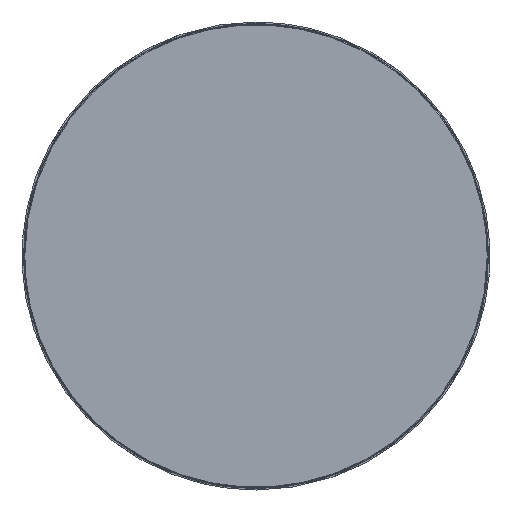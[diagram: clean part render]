
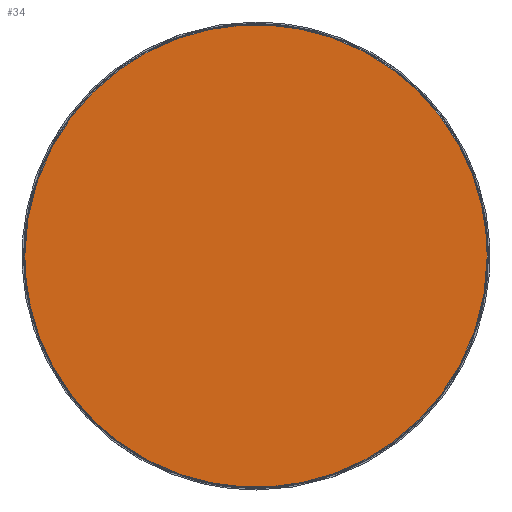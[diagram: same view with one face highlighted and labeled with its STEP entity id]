
A CAD part, top view. The second image highlights one B-rep face of the part: STEP entity #34.
In plain terms, the highlighted planar face has unit normal (0, 0, 1).
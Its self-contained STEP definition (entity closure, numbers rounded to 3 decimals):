
#34=ADVANCED_FACE('',(#56),#279,.T.);
#56=FACE_OUTER_BOUND('',#78,.T.);
#78=EDGE_LOOP('',(#110,#111));
#110=ORIENTED_EDGE('',*,*,#185,.F.);
#111=ORIENTED_EDGE('',*,*,#180,.F.);
#180=EDGE_CURVE('',#247,#250,#217,.T.);
#185=EDGE_CURVE('',#250,#247,#221,.T.);
#217=(
BOUNDED_CURVE()
B_SPLINE_CURVE(2,(#663,#664,#665,#666,#667),.UNSPECIFIED.,.F.,.F.)
B_SPLINE_CURVE_WITH_KNOTS((3,2,3),(0.,387.201,774.402),
 .UNSPECIFIED.)
CURVE()
GEOMETRIC_REPRESENTATION_ITEM()
RATIONAL_B_SPLINE_CURVE((1.,0.707,1.,0.707,1.))
REPRESENTATION_ITEM('')
);
#221=(
BOUNDED_CURVE()
B_SPLINE_CURVE(2,(#682,#683,#684,#685,#686),.UNSPECIFIED.,.F.,.F.)
B_SPLINE_CURVE_WITH_KNOTS((3,2,3),(774.402,1161.603,1548.804),
 .UNSPECIFIED.)
CURVE()
GEOMETRIC_REPRESENTATION_ITEM()
RATIONAL_B_SPLINE_CURVE((1.,0.707,1.,0.707,1.))
REPRESENTATION_ITEM('')
);
#247=VERTEX_POINT('',#645);
#250=VERTEX_POINT('',#648);
#279=PLANE('',#374);
#374=AXIS2_PLACEMENT_3D('',#621,#387,$);
#387=DIRECTION('',(0.,0.,1.));
#621=CARTESIAN_POINT('',(-59.875,558.875,530.94));
#645=CARTESIAN_POINT('',(496.,249.5,530.94));
#648=CARTESIAN_POINT('',(3.,249.5,530.94));
#663=CARTESIAN_POINT('',(496.,249.5,530.94));
#664=CARTESIAN_POINT('',(496.,3.,530.94));
#665=CARTESIAN_POINT('',(249.5,3.,530.94));
#666=CARTESIAN_POINT('',(3.,3.,530.94));
#667=CARTESIAN_POINT('',(3.,249.5,530.94));
#682=CARTESIAN_POINT('',(3.,249.5,530.94));
#683=CARTESIAN_POINT('',(3.,496.,530.94));
#684=CARTESIAN_POINT('',(249.5,496.,530.94));
#685=CARTESIAN_POINT('',(496.,496.,530.94));
#686=CARTESIAN_POINT('',(496.,249.5,530.94));
